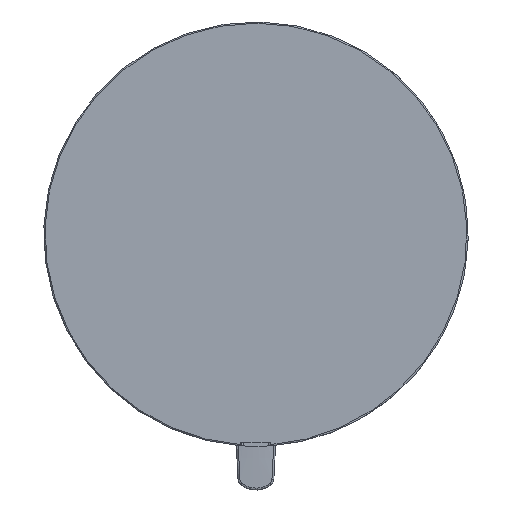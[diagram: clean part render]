
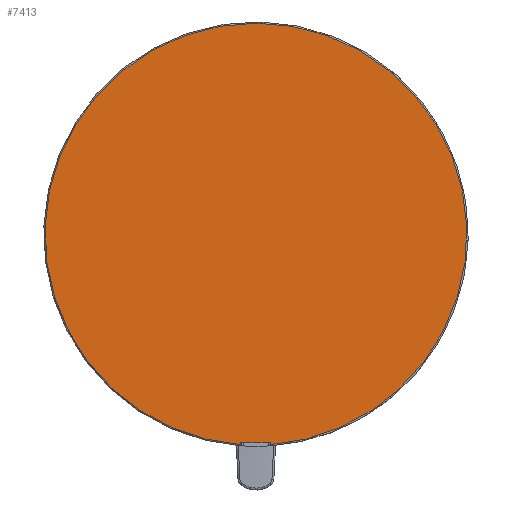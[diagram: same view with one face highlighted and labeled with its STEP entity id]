
A CAD part, left-side view. The second image highlights one B-rep face of the part: STEP entity #7413.
In plain terms, the highlighted planar face has unit normal (-1, 0, 0).
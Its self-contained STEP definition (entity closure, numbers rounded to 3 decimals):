
#2141=CARTESIAN_POINT('',(-1.5,0.,0.));
#2142=DIRECTION('',(-1.,0.,0.));
#2143=DIRECTION('',(0.,-0.071,-0.997));
#2144=AXIS2_PLACEMENT_3D('',#2141,#2142,#2143);
#2166=CARTESIAN_POINT('',(-1.5,-6.,-83.259));
#2168=DIRECTION('',(0.,0.,1.));
#2169=VECTOR('',#2168,1.028);
#2170=CARTESIAN_POINT('',(-1.5,-6.,-84.287));
#2171=LINE('',#2170,#2169);
#2242=CARTESIAN_POINT('',(-1.5,6.,-83.259));
#2247=CARTESIAN_POINT('',(-1.5,0.,0.));
#2248=DIRECTION('',(-1.,0.,0.));
#2249=DIRECTION('',(0.,0.072,-0.997));
#2250=AXIS2_PLACEMENT_3D('',#2247,#2248,#2249);
#2252=DIRECTION('',(0.,0.,1.));
#2253=VECTOR('',#2252,1.028);
#2254=CARTESIAN_POINT('',(-1.5,6.,-84.287));
#2255=LINE('',#2254,#2253);
#2328=VERTEX_POINT('',#2166);
#2333=VERTEX_POINT('',#2242);
#2338=CARTESIAN_POINT('',(-1.5,-6.,-84.287));
#2339=VERTEX_POINT('',#2338);
#2340=CARTESIAN_POINT('',(-1.5,6.,-84.287));
#2341=VERTEX_POINT('',#2340);
#7402=CARTESIAN_POINT('',(-1.5,0.,83.));
#7403=DIRECTION('',(-1.,0.,0.));
#7404=DIRECTION('',(0.,1.,0.));
#7405=AXIS2_PLACEMENT_3D('',#7402,#7403,#7404);
#7406=PLANE('',#7405);
#7407=ORIENTED_EDGE('',*,*,#7321,.T.);
#7408=ORIENTED_EDGE('',*,*,#7344,.F.);
#7409=ORIENTED_EDGE('',*,*,#7397,.F.);
#7410=ORIENTED_EDGE('',*,*,#7306,.F.);
#7411=EDGE_LOOP('',(#7407,#7408,#7409,#7410));
#7412=FACE_OUTER_BOUND('',#7411,.F.);
#7413=ADVANCED_FACE('',(#7412),#7406,.T.);
#2145=CIRCLE('',#2144,84.5);
#2251=CIRCLE('',#2250,83.474);
#7306=EDGE_CURVE('',#2339,#2341,#2145,.T.);
#7321=EDGE_CURVE('',#2339,#2328,#2171,.T.);
#7344=EDGE_CURVE('',#2333,#2328,#2251,.T.);
#7397=EDGE_CURVE('',#2341,#2333,#2255,.T.);
